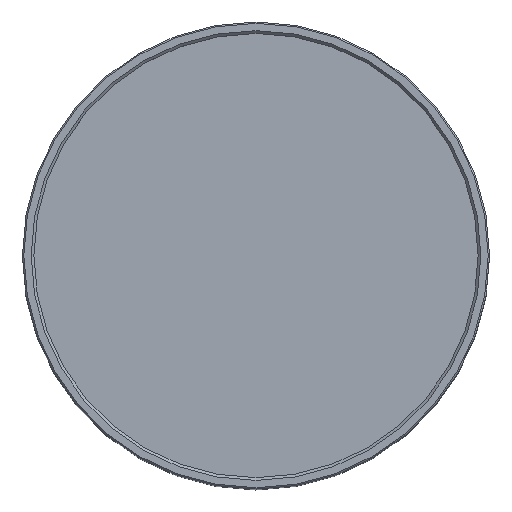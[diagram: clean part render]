
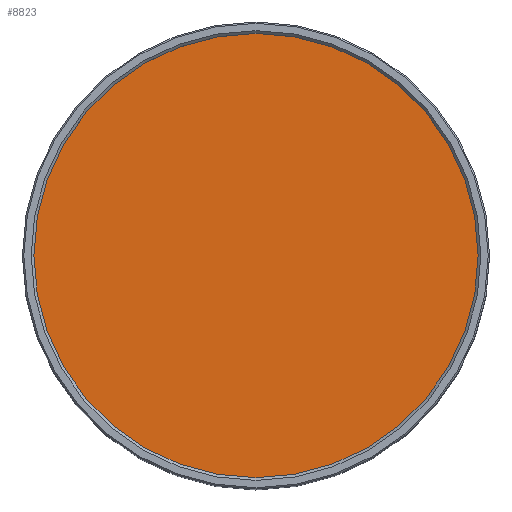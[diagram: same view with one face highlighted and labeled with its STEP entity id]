
A CAD part, top view. The second image highlights one B-rep face of the part: STEP entity #8823.
In plain terms, the highlighted planar face has unit normal (0, 0, 1).
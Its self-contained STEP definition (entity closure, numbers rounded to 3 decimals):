
#287 = CIRCLE ( 'NONE', #8531, 49.46 ) ;
#4371 = DIRECTION ( 'NONE',  ( 0., 0., -1. ) ) ;
#5162 = ORIENTED_EDGE ( 'NONE', *, *, #10362, .F. ) ;
#5536 = CARTESIAN_POINT ( 'NONE',  ( 0., 0., 195.719 ) ) ;
#6266 = EDGE_LOOP ( 'NONE', ( #5162 ) ) ;
#8414 = DIRECTION ( 'NONE',  ( 0., 1., 0. ) ) ;
#8531 = AXIS2_PLACEMENT_3D ( 'NONE', #13017, #4371, #14446 ) ;
#8823 = ADVANCED_FACE ( 'NONE', ( #14400 ), #15543, .F. ) ;
#10362 = EDGE_CURVE ( 'NONE', #17655, #17655, #287, .T. ) ;
#13017 = CARTESIAN_POINT ( 'NONE',  ( 0., 0., 195.719 ) ) ;
#14400 = FACE_OUTER_BOUND ( 'NONE', #6266, .T. ) ;
#14446 = DIRECTION ( 'NONE',  ( 0., 1., 0. ) ) ;
#14760 = CARTESIAN_POINT ( 'NONE',  ( 0., 49.46, 195.719 ) ) ;
#15373 = AXIS2_PLACEMENT_3D ( 'NONE', #5536, #16900, #8414 ) ;
#15543 = PLANE ( 'NONE',  #15373 ) ;
#16900 = DIRECTION ( 'NONE',  ( 0., 0., -1. ) ) ;
#17655 = VERTEX_POINT ( 'NONE', #14760 ) ;
